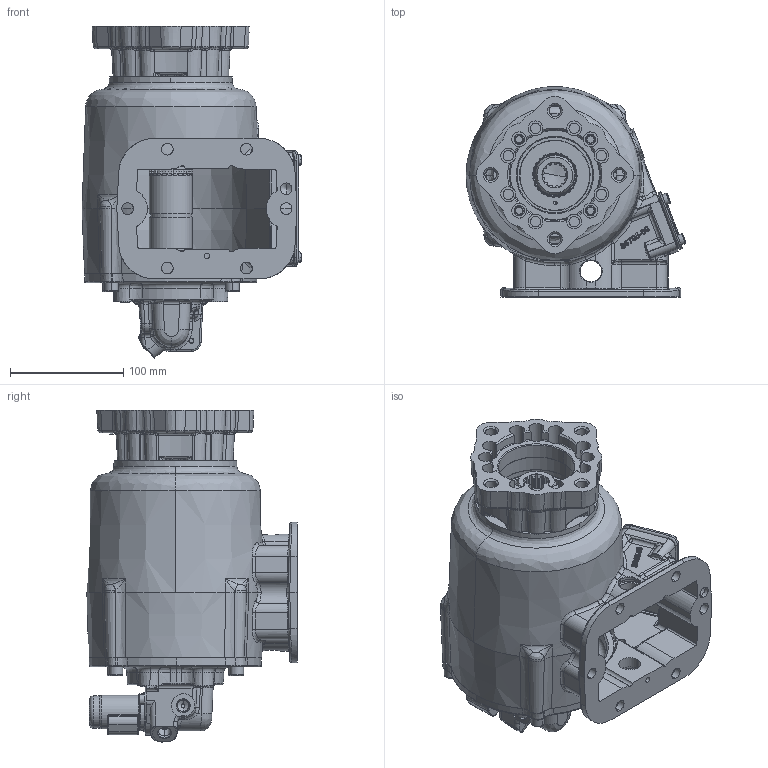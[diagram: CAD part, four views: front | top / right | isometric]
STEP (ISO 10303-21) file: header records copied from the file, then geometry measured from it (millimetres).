
FILE_DESCRIPTION (( 'STEP AP203' ), '1' );
FILE_NAME ('CS6B-XXXXX-S3DX.STEP', '2023-05-24T12:47:29', ( '' ), ( '' ), 'SwSTEP 2.0', 'SolidWorks 2021', '' );
FILE_SCHEMA (( 'CONFIG_CONTROL_DESIGN' ));
Length unit declared in the file: inch
Products named in the file (16): 19T41118; 19T40859; 19T35237; CS6_8 OUTPUT SHAFTS_06T37090; 12T36471; CS6B-XXXXX-S3DX; 01T37072-01; 11T36124-1; 24T36894; 35T40860-2; 25T21684; 12T34003; 16T41119; 19T36174; 14T39406; 15T41597
Assembly tree (27 placements, depth 2):
  CS6B-XXXXX-S3DX
    01T37072-01
    16T41119
    12T34003
    25T21684  x2
    19T41118  x4
    19T36174  x4
    CS6_8 OUTPUT SHAFTS_06T37090
    11T36124-1
    24T36894
    12T36471  x2
    15T41597
    35T40860-2
    19T35237  x4
    19T40859  x2
    14T39406
Bounding box: 193.76 x 185.25 x 292.61 mm (x, y, z)
Volume: 1507994 mm3; surface area: 444112.7 mm2
Topology: 28 solids, 28 shells, 3317 faces, 8391 edges, 5185 vertices
Faces by surface type: bspline 1046, plane 839, cylinder 773, cone 423, torus 219, sphere 17
Entity records: 183210 total; most frequent: CARTESIAN_POINT 114993, ORIENTED_EDGE 15492, DIRECTION 11167, EDGE_CURVE 7746, VERTEX_POINT 4850, AXIS2_PLACEMENT_3D 4299, EDGE_LOOP 3312, FACE_OUTER_BOUND 3060
